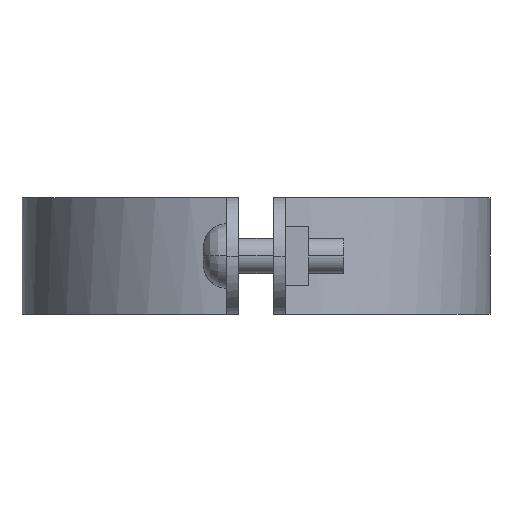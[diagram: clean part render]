
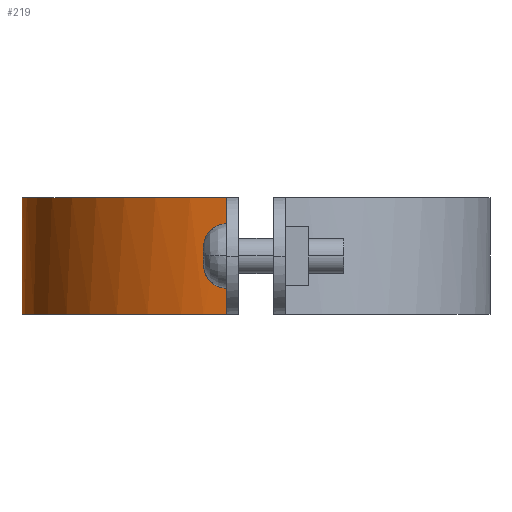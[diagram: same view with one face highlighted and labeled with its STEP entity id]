
A CAD part, left-side view. The second image highlights one B-rep face of the part: STEP entity #219.
In plain terms, the highlighted free-form (B-spline) face has degree [3, 1] with [4, 2] control points.
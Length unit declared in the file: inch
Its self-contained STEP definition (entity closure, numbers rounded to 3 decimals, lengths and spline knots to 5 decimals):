
#219=ADVANCED_FACE('',(#449),#450,.T.);
#449=FACE_OUTER_BOUND('',#792,.T.);
#450=B_SPLINE_SURFACE_WITH_KNOTS('',3,1,((#793,#794),(#795,#796),(#797,#798),(#799,#800)),.UNSPECIFIED.,.F.,.F.,.F.,(4,4),(2,2),(0.0,1.0),(0.0,1.25),.UNSPECIFIED.);
#792=EDGE_LOOP('',(#1563,#1564,#1565,#1566));
#793=CARTESIAN_POINT('',(3.21791,4.8302,0.0));
#794=CARTESIAN_POINT('',(3.21791,4.8302,1.25));
#795=CARTESIAN_POINT('',(1.95801,4.8302,0.0));
#796=CARTESIAN_POINT('',(1.95801,4.8302,1.25));
#797=CARTESIAN_POINT('',(0.89497,3.8927,0.0));
#798=CARTESIAN_POINT('',(0.89497,3.8927,1.25));
#799=CARTESIAN_POINT('',(0.73749,2.64269,0.0));
#800=CARTESIAN_POINT('',(0.73749,2.64269,1.25));
#1563=ORIENTED_EDGE('',*,*,#2036,.T.);
#1564=ORIENTED_EDGE('',*,*,#2072,.F.);
#1565=ORIENTED_EDGE('',*,*,#2073,.T.);
#1566=ORIENTED_EDGE('',*,*,#2074,.T.);
#2036=EDGE_CURVE('',#2370,#2367,#2371,.T.);
#2072=EDGE_CURVE('',#2424,#2367,#2425,.T.);
#2073=EDGE_CURVE('',#2424,#2426,#2427,.T.);
#2074=EDGE_CURVE('',#2426,#2370,#2428,.T.);
#2367=VERTEX_POINT('',#2853);
#2370=VERTEX_POINT('',#2857);
#2371=B_SPLINE_CURVE_WITH_KNOTS('',3,(#2858,#2859,#2860,#2861),.UNSPECIFIED.,.F.,.F.,(4,4),(-1.0,-0.0),.UNSPECIFIED.);
#2424=VERTEX_POINT('',#2981);
#2425=LINE('',#2982,#2983);
#2426=VERTEX_POINT('',#2984);
#2427=B_SPLINE_CURVE_WITH_KNOTS('',3,(#2985,#2986,#2987,#2988),.UNSPECIFIED.,.F.,.F.,(4,4),(0.0,1.0),.UNSPECIFIED.);
#2428=LINE('',#2989,#2990);
#2853=CARTESIAN_POINT('',(3.21791,4.8302,1.24992));
#2857=CARTESIAN_POINT('',(0.73749,2.64269,1.24992));
#2858=CARTESIAN_POINT('',(0.73749,2.64269,1.24992));
#2859=CARTESIAN_POINT('',(0.89497,3.8927,1.24992));
#2860=CARTESIAN_POINT('',(1.95801,4.8302,1.24992));
#2861=CARTESIAN_POINT('',(3.21791,4.8302,1.24992));
#2981=CARTESIAN_POINT('',(3.21791,4.8302,0.00011));
#2982=CARTESIAN_POINT('',(3.21791,4.8302,0.0));
#2983=VECTOR('',#3407,1.0);
#2984=CARTESIAN_POINT('',(0.73749,2.64269,0.00011));
#2985=CARTESIAN_POINT('',(3.21791,4.8302,0.00011));
#2986=CARTESIAN_POINT('',(1.95801,4.8302,0.00011));
#2987=CARTESIAN_POINT('',(0.89497,3.8927,0.00011));
#2988=CARTESIAN_POINT('',(0.73749,2.64269,0.00011));
#2989=CARTESIAN_POINT('',(0.73749,2.64269,0.0));
#2990=VECTOR('',#3408,1.0);
#3407=DIRECTION('',(0.0,0.0,1.0));
#3408=DIRECTION('',(0.0,0.0,1.0));
